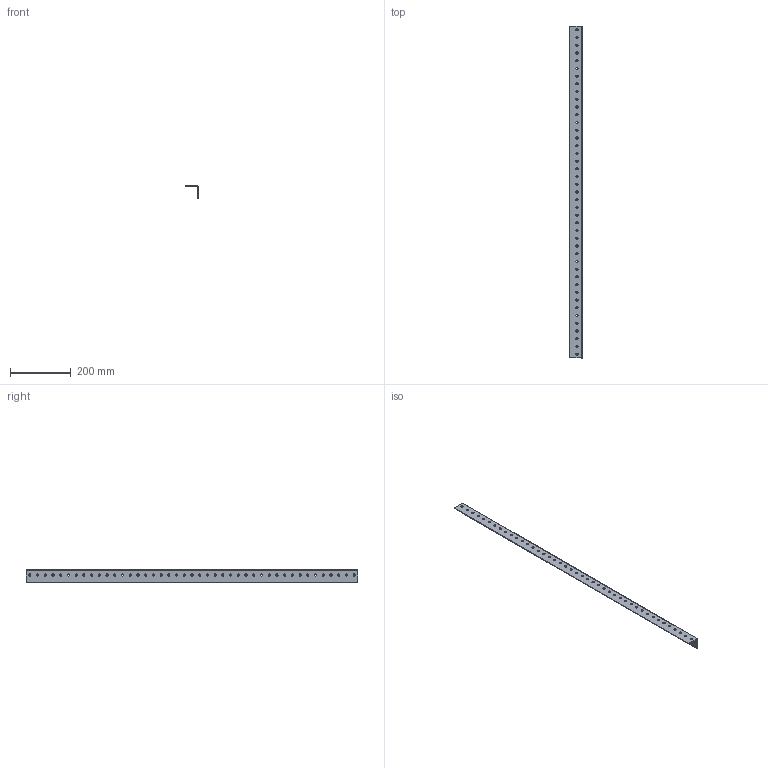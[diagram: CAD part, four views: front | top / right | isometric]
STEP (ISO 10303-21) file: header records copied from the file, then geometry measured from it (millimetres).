
FILE_DESCRIPTION(/* description */ ('Alibre Inc.'),/* implementation_level */ '2;1');
FILE_NAME(/* name */ 'export-0DF84720-2981-4AD2-9F3A-B730F55FC855',/* time_stamp */ '2022-04-19T13:26:12-05:00',/* author */ (''),/* organization */ (''),/* preprocessor_version */ 'ST-DEVELOPER v17',/* originating_system */ 'Alibre',/* authorisation */ '');
FILE_SCHEMA (('AUTOMOTIVE_DESIGN'));
Length unit declared in the file: centimetre
Bounding box: 41.91 x 1092.2 x 41.91 mm (x, y, z)
Volume: 159263.7 mm3; surface area: 177499.4 mm2
Topology: 1 solids, 1 shells, 96 faces, 282 edges, 188 vertices
Faces by surface type: cylinder 88, plane 8
Full cylindrical faces by diameter (mm): 7.137 x86
Entity records: 3223 total; most frequent: DIRECTION 556, CARTESIAN_POINT 480, ORIENTED_EDGE 392, EDGE_LOOP 354, FACE_BOUND 354, AXIS2_PLACEMENT_3D 272, EDGE_CURVE 196, VERTEX_POINT 188
